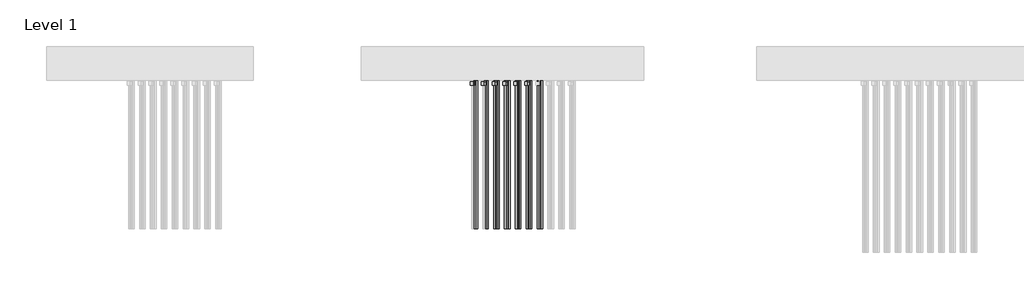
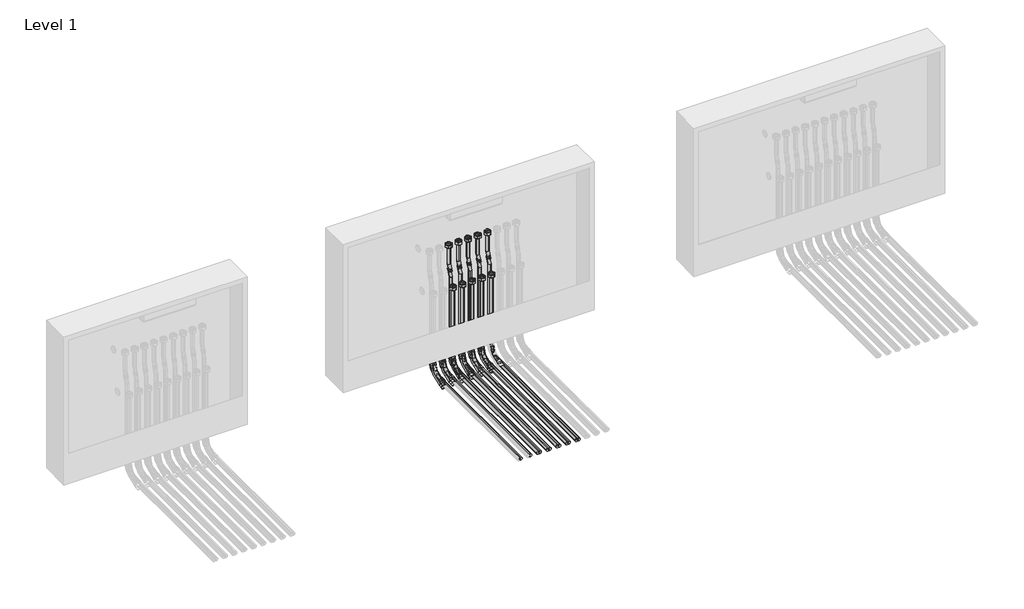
# One storey, part 10 of 15: 44 pipe fittings, 32 pipe segments.
"""IFC4 building model written with IfcOpenShell, lengths in millimetres."""

from ifc_helpers import new_model, si_unit, point, frame, frame_2d, origin, place, context, project, spatial, circle_curve, trimmed, segment, composite_curve, outline, extrude, transform, mapped, element, save
from components import pipe_fitting_b05a7e06, pipe_fitting_27357a6d, pipe_fitting_daada113, pipe_fitting_3e503640

model = new_model("IFC4")

# Units and contexts
model_context = context("Model", 3, world=origin())
ifc_project = project(units=[si_unit("LENGTHUNIT", "METRE", prefix="MILLI")], contexts=[model_context])

# Site, building, storey
site = spatial("IfcSite", under=ifc_project)
building = spatial("IfcBuilding", under=site)
storey = spatial("IfcBuildingStorey", under=building, Name="Level 1", Elevation=0.0)

# Pipe fittings
placement = place(None, origin())
pipe_fitting_shape = pipe_fitting_b05a7e06(model_context)
element("IfcPipeFitting", 1, ObjectType="USYSTEMS_УгловойФиксатор_Multi : Угловой фиксатор", at=placement, inside=storey, context=model_context, shape_type="MappedRepresentation", body=[
    mapped(pipe_fitting_shape, transform((13106.541018, 3819.4868288, -114.3211479), x_axis=(0.0, 0.0, -1.0), y_axis=(0.0, -1.0, 0.0), z_axis=(-1.0, 0.0, 0.0))),
])
element("IfcPipeFitting", 2, ObjectType="USYSTEMS_УгловойФиксатор_Multi : Угловой фиксатор", at=placement, inside=storey, context=model_context, shape_type="MappedRepresentation", body=[
    mapped(pipe_fitting_shape, transform((13156.541018, 3819.4868288, -114.3211479), x_axis=(0.0, 0.0, -1.0), y_axis=(0.0, -1.0, 0.0), z_axis=(-1.0, 0.0, 0.0))),
])
element("IfcPipeFitting", 3, ObjectType="USYSTEMS_УгловойФиксатор_Multi : Угловой фиксатор", at=placement, inside=storey, context=model_context, shape_type="MappedRepresentation", body=[
    mapped(pipe_fitting_shape, transform((13116.6267744, 3855.4868288, -114.3211479), x_axis=(0.0, 0.0, -1.0), y_axis=(0.0, -1.0, 0.0), z_axis=(-1.0, 0.0, 0.0))),
])
element("IfcPipeFitting", 4, ObjectType="USYSTEMS_УгловойФиксатор_Multi : Угловой фиксатор", at=placement, inside=storey, context=model_context, shape_type="MappedRepresentation", body=[
    mapped(pipe_fitting_shape, transform((13166.6267744, 3855.4868288, -114.3211479), x_axis=(0.0, 0.0, -1.0), y_axis=(0.0, -1.0, 0.0), z_axis=(-1.0, 0.0, 0.0))),
])
element("IfcPipeFitting", 5, ObjectType="USYSTEMS_УгловойФиксатор_Multi : Угловой фиксатор", at=placement, inside=storey, context=model_context, shape_type="MappedRepresentation", body=[
    mapped(pipe_fitting_shape, transform((13206.541018, 3819.4871509, -114.3211479), x_axis=(0.0, 0.0, -1.0), y_axis=(0.0, -1.0, 0.0), z_axis=(-1.0, 0.0, 0.0))),
])
element("IfcPipeFitting", 6, ObjectType="USYSTEMS_УгловойФиксатор_Multi : Угловой фиксатор", at=placement, inside=storey, context=model_context, shape_type="MappedRepresentation", body=[
    mapped(pipe_fitting_shape, transform((13216.6267744, 3855.4868288, -114.3211479), x_axis=(0.0, 0.0, -1.0), y_axis=(0.0, -1.0, 0.0), z_axis=(-1.0, 0.0, 0.0))),
])
element("IfcPipeFitting", 7, ObjectType="USYSTEMS_УгловойФиксатор_Multi : Угловой фиксатор", at=placement, inside=storey, context=model_context, shape_type="MappedRepresentation", body=[
    mapped(pipe_fitting_shape, transform((13256.541018, 3819.4871306, -114.3211479), x_axis=(0.0, 0.0, -1.0), y_axis=(0.0, -1.0, 0.0), z_axis=(-1.0, 0.0, 0.0))),
])
element("IfcPipeFitting", 8, ObjectType="USYSTEMS_УгловойФиксатор_Multi : Угловой фиксатор", at=placement, inside=storey, context=model_context, shape_type="MappedRepresentation", body=[
    mapped(pipe_fitting_shape, transform((13266.6267744, 3855.4868288, -114.3211479), x_axis=(0.0, 0.0, -1.0), y_axis=(0.0, -1.0, 0.0), z_axis=(-1.0, 0.0, 0.0))),
])
element("IfcPipeFitting", 9, ObjectType="USYSTEMS_УгловойФиксатор_Multi : Угловой фиксатор", at=placement, inside=storey, context=model_context, shape_type="MappedRepresentation", body=[
    mapped(pipe_fitting_shape, transform((13306.541018, 3819.4868288, -114.3211479), x_axis=(0.0, 0.0, -1.0), y_axis=(0.0, -1.0, 0.0), z_axis=(-1.0, 0.0, 0.0))),
])
element("IfcPipeFitting", 10, ObjectType="USYSTEMS_УгловойФиксатор_Multi : Угловой фиксатор", at=placement, inside=storey, context=model_context, shape_type="MappedRepresentation", body=[
    mapped(pipe_fitting_shape, transform((13316.6267744, 3855.4868288, -114.3211479), x_axis=(0.0, 0.0, -1.0), y_axis=(0.0, -1.0, 0.0), z_axis=(-1.0, 0.0, 0.0))),
])
element("IfcPipeFitting", 11, ObjectType="USYSTEMS_УгловойФиксатор_Multi : Угловой фиксатор", at=placement, inside=storey, context=model_context, shape_type="MappedRepresentation", body=[
    mapped(pipe_fitting_shape, transform((13356.541018, 3819.4871289, -114.3211479), x_axis=(0.0, 0.0, -1.0), y_axis=(0.0, -1.0, 0.0), z_axis=(-1.0, 0.0, 0.0))),
])
element("IfcPipeFitting", 12, ObjectType="USYSTEMS_УгловойФиксатор_Multi : Угловой фиксатор", at=placement, inside=storey, context=model_context, shape_type="MappedRepresentation", body=[
    mapped(pipe_fitting_shape, transform((13366.6267744, 3855.4868288, -114.3211479), x_axis=(0.0, 0.0, -1.0), y_axis=(0.0, -1.0, 0.0), z_axis=(-1.0, 0.0, 0.0))),
])
pipe_fitting_2_shape = pipe_fitting_27357a6d(model_context)
element("IfcPipeFitting", 13, ObjectType="USYSTEMS_Штуцер с внутренней резьбой_FlexX_PEX : 16x2,0 x 3/4\" ВР Евроконус", at=placement, inside=storey, context=model_context, shape_type="MappedRepresentation", body=[
    mapped(pipe_fitting_2_shape, transform((13206.541018, 3819.4872889, 328.3084133), x_axis=(0.0, 0.0, 1.0), y_axis=(0.0, 1.0, 0.0), z_axis=(-1.0, 0.0, 0.0))),
])
element("IfcPipeFitting", 14, ObjectType="USYSTEMS_Штуцер с внутренней резьбой_FlexX_PEX : 16x2,0 x 3/4\" ВР Евроконус", at=placement, inside=storey, context=model_context, shape_type="MappedRepresentation", body=[
    mapped(pipe_fitting_2_shape, transform((13206.541018, 3855.4872889, 538.3084133), x_axis=(0.0, 0.0, 1.0), y_axis=(0.0, 1.0, 0.0), z_axis=(-1.0, 0.0, 0.0))),
])
element("IfcPipeFitting", 15, ObjectType="USYSTEMS_Штуцер с внутренней резьбой_FlexX_PEX : 16x2,0 x 3/4\" ВР Евроконус", at=placement, inside=storey, context=model_context, shape_type="MappedRepresentation", body=[
    mapped(pipe_fitting_2_shape, transform((13256.541018, 3819.4872889, 328.3084133), x_axis=(0.0, 0.0, 1.0), y_axis=(0.0, 1.0, 0.0), z_axis=(-1.0, 0.0, 0.0))),
])
element("IfcPipeFitting", 16, ObjectType="USYSTEMS_Штуцер с внутренней резьбой_FlexX_PEX : 16x2,0 x 3/4\" ВР Евроконус", at=placement, inside=storey, context=model_context, shape_type="MappedRepresentation", body=[
    mapped(pipe_fitting_2_shape, transform((13256.541018, 3855.4872889, 538.3084133), x_axis=(0.0, 0.0, 1.0), y_axis=(0.0, 1.0, 0.0), z_axis=(-1.0, 0.0, 0.0))),
])
element("IfcPipeFitting", 17, ObjectType="USYSTEMS_Штуцер с внутренней резьбой_FlexX_PEX : 16x2,0 x 3/4\" ВР Евроконус", at=placement, inside=storey, context=model_context, shape_type="MappedRepresentation", body=[
    mapped(pipe_fitting_2_shape, transform((13306.541018, 3819.4872889, 328.3084133), x_axis=(0.0, 0.0, 1.0), y_axis=(0.0, 1.0, 0.0), z_axis=(-1.0, 0.0, 0.0))),
])
element("IfcPipeFitting", 18, ObjectType="USYSTEMS_Штуцер с внутренней резьбой_FlexX_PEX : 16x2,0 x 3/4\" ВР Евроконус", at=placement, inside=storey, context=model_context, shape_type="MappedRepresentation", body=[
    mapped(pipe_fitting_2_shape, transform((13306.541018, 3855.4872889, 538.3084133), x_axis=(0.0, 0.0, 1.0), y_axis=(0.0, 1.0, 0.0), z_axis=(-1.0, 0.0, 0.0))),
])
element("IfcPipeFitting", 19, ObjectType="USYSTEMS_Штуцер с внутренней резьбой_FlexX_PEX : 16x2,0 x 3/4\" ВР Евроконус", at=placement, inside=storey, context=model_context, shape_type="MappedRepresentation", body=[
    mapped(pipe_fitting_2_shape, transform((13356.541018, 3819.4872889, 328.3084133), x_axis=(0.0, 0.0, 1.0), y_axis=(0.0, 1.0, 0.0), z_axis=(-1.0, 0.0, 0.0))),
])
element("IfcPipeFitting", 20, ObjectType="USYSTEMS_Штуцер с внутренней резьбой_FlexX_PEX : 16x2,0 x 3/4\" ВР Евроконус", at=placement, inside=storey, context=model_context, shape_type="MappedRepresentation", body=[
    mapped(pipe_fitting_2_shape, transform((13356.541018, 3855.4872889, 538.3084133), x_axis=(0.0, 0.0, 1.0), y_axis=(0.0, 1.0, 0.0), z_axis=(-1.0, 0.0, 0.0))),
])
element("IfcPipeFitting", 21, ObjectType="USYSTEMS_Штуцер с внутренней резьбой_FlexX_PEX : 16x2,0 x 3/4\" ВР Евроконус", at=placement, inside=storey, context=model_context, shape_type="MappedRepresentation", body=[
    mapped(pipe_fitting_2_shape, transform((13406.541018, 3819.4872889, 328.3084133), x_axis=(0.0, 0.0, 1.0), y_axis=(0.0, 1.0, 0.0), z_axis=(-1.0, 0.0, 0.0))),
])
element("IfcPipeFitting", 22, ObjectType="USYSTEMS_Штуцер с внутренней резьбой_FlexX_PEX : 16x2,0 x 3/4\" ВР Евроконус", at=placement, inside=storey, context=model_context, shape_type="MappedRepresentation", body=[
    mapped(pipe_fitting_2_shape, transform((13406.541018, 3855.4872889, 538.3084133), x_axis=(0.0, 0.0, 1.0), y_axis=(0.0, 1.0, 0.0), z_axis=(-1.0, 0.0, 0.0))),
])
pipe_fitting_3_shape = pipe_fitting_daada113(model_context)
element("IfcPipeFitting", 23, ObjectType="USYSTEMS_Гнутая труба_Radi Pipe : PN 6 в бухтах", at=placement, inside=storey, context=model_context, shape_type="MappedRepresentation", body=[
    mapped(pipe_fitting_3_shape, transform((13206.541018, 3855.4865765, 414.5388211), x_axis=(0.0, 0.0, -1.0), y_axis=(1.0, 0.0, 0.0), z_axis=(0.0, -1.0, 0.0))),
])
element("IfcPipeFitting", 24, ObjectType="USYSTEMS_Гнутая труба_Radi Pipe : PN 6 в бухтах", at=placement, inside=storey, context=model_context, shape_type="MappedRepresentation", body=[
    mapped(pipe_fitting_3_shape, transform((13216.6267744, 3855.4868288, 388.2645272), x_axis=(0.3583679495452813, 0.0, -0.9335804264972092), y_axis=(-0.9335804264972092, 0.0, -0.3583679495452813), z_axis=(0.0, 1.0, 0.0))),
])
element("IfcPipeFitting", 25, ObjectType="USYSTEMS_Гнутая труба_Radi Pipe : PN 6 в бухтах", at=placement, inside=storey, context=model_context, shape_type="MappedRepresentation", body=[
    mapped(pipe_fitting_3_shape, transform((13256.541018, 3855.4865289, 414.5388211), x_axis=(0.0, 0.0, -1.0), y_axis=(1.0, 0.0, 0.0), z_axis=(0.0, -1.0, 0.0))),
])
element("IfcPipeFitting", 26, ObjectType="USYSTEMS_Гнутая труба_Radi Pipe : PN 6 в бухтах", at=placement, inside=storey, context=model_context, shape_type="MappedRepresentation", body=[
    mapped(pipe_fitting_3_shape, transform((13266.6267744, 3855.4868288, 388.2645272), x_axis=(0.3583679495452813, 0.0, -0.9335804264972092), y_axis=(-0.9335804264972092, 0.0, -0.3583679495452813), z_axis=(0.0, 1.0, 0.0))),
])
element("IfcPipeFitting", 27, ObjectType="USYSTEMS_Гнутая труба_Radi Pipe : PN 6 в бухтах", at=placement, inside=storey, context=model_context, shape_type="MappedRepresentation", body=[
    mapped(pipe_fitting_3_shape, transform((13306.541018, 3855.4866064, 414.5388211), x_axis=(0.0, 0.0, -1.0), y_axis=(1.0, 0.0, 0.0), z_axis=(0.0, -1.0, 0.0))),
])
element("IfcPipeFitting", 28, ObjectType="USYSTEMS_Гнутая труба_Radi Pipe : PN 6 в бухтах", at=placement, inside=storey, context=model_context, shape_type="MappedRepresentation", body=[
    mapped(pipe_fitting_3_shape, transform((13316.6267744, 3855.4868288, 388.2645272), x_axis=(0.3583679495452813, 0.0, -0.9335804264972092), y_axis=(-0.9335804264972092, 0.0, -0.3583679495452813), z_axis=(0.0, 1.0, 0.0))),
])
element("IfcPipeFitting", 29, ObjectType="USYSTEMS_Гнутая труба_Radi Pipe : PN 6 в бухтах", at=placement, inside=storey, context=model_context, shape_type="MappedRepresentation", body=[
    mapped(pipe_fitting_3_shape, transform((13356.541018, 3855.4865289, 414.5388211), x_axis=(0.0, 0.0, -1.0), y_axis=(1.0, 0.0, 0.0), z_axis=(0.0, -1.0, 0.0))),
])
element("IfcPipeFitting", 30, ObjectType="USYSTEMS_Гнутая труба_Radi Pipe : PN 6 в бухтах", at=placement, inside=storey, context=model_context, shape_type="MappedRepresentation", body=[
    mapped(pipe_fitting_3_shape, transform((13366.6267744, 3855.4868288, 388.2645272), x_axis=(0.3583679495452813, 0.0, -0.9335804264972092), y_axis=(-0.9335804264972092, 0.0, -0.3583679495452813), z_axis=(0.0, 1.0, 0.0))),
])
element("IfcPipeFitting", 31, ObjectType="USYSTEMS_Гнутая труба_Radi Pipe : PN 6 в бухтах", at=placement, inside=storey, context=model_context, shape_type="MappedRepresentation", body=[
    mapped(pipe_fitting_3_shape, transform((13406.541018, 3855.4870609, 414.5388211), x_axis=(0.0, 0.0, -1.0), y_axis=(1.0, 0.0, 0.0), z_axis=(0.0, -1.0, 0.0))),
])
element("IfcPipeFitting", 32, ObjectType="USYSTEMS_Гнутая труба_Radi Pipe : PN 6 в бухтах", at=placement, inside=storey, context=model_context, shape_type="MappedRepresentation", body=[
    mapped(pipe_fitting_3_shape, transform((13416.6267744, 3855.4871509, 388.2645272), x_axis=(0.3583679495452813, 0.0, -0.9335804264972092), y_axis=(-0.9335804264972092, 0.0, -0.3583679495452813), z_axis=(0.0, 1.0, 0.0))),
])
pipe_fitting_4_shape = pipe_fitting_3e503640(model_context)
element("IfcPipeFitting", 33, ObjectType="USYSTEMS_Гнутая труба_Radi Pipe : PN 6 в бухтах_С фиксатором", at=placement, inside=storey, context=model_context, shape_type="MappedRepresentation", body=[
    mapped(pipe_fitting_4_shape, transform((13156.541018, 3819.4868288, -114.3211479), x_axis=(0.0, 0.0, -1.0), y_axis=(0.0, -1.0, 0.0), z_axis=(-1.0, 0.0, 0.0))),
])
element("IfcPipeFitting", 34, ObjectType="USYSTEMS_Гнутая труба_Radi Pipe : PN 6 в бухтах_С фиксатором", at=placement, inside=storey, context=model_context, shape_type="MappedRepresentation", body=[
    mapped(pipe_fitting_4_shape, transform((13116.6267744, 3855.4868288, -114.3211479), x_axis=(0.0, 0.0, -1.0), y_axis=(0.0, -1.0, 0.0), z_axis=(-1.0, 0.0, 0.0))),
])
element("IfcPipeFitting", 35, ObjectType="USYSTEMS_Гнутая труба_Radi Pipe : PN 6 в бухтах_С фиксатором", at=placement, inside=storey, context=model_context, shape_type="MappedRepresentation", body=[
    mapped(pipe_fitting_4_shape, transform((13166.6267744, 3855.4868288, -114.3211479), x_axis=(0.0, 0.0, -1.0), y_axis=(0.0, -1.0, 0.0), z_axis=(-1.0, 0.0, 0.0))),
])
element("IfcPipeFitting", 36, ObjectType="USYSTEMS_Гнутая труба_Radi Pipe : PN 6 в бухтах_С фиксатором", at=placement, inside=storey, context=model_context, shape_type="MappedRepresentation", body=[
    mapped(pipe_fitting_4_shape, transform((13206.541018, 3819.4871509, -114.3211479), x_axis=(0.0, 0.0, -1.0), y_axis=(0.0, -1.0, 0.0), z_axis=(-1.0, 0.0, 0.0))),
])
element("IfcPipeFitting", 37, ObjectType="USYSTEMS_Гнутая труба_Radi Pipe : PN 6 в бухтах_С фиксатором", at=placement, inside=storey, context=model_context, shape_type="MappedRepresentation", body=[
    mapped(pipe_fitting_4_shape, transform((13216.6267744, 3855.4868288, -114.3211479), x_axis=(0.0, 0.0, -1.0), y_axis=(0.0, -1.0, 0.0), z_axis=(-1.0, 0.0, 0.0))),
])
element("IfcPipeFitting", 38, ObjectType="USYSTEMS_Гнутая труба_Radi Pipe : PN 6 в бухтах_С фиксатором", at=placement, inside=storey, context=model_context, shape_type="MappedRepresentation", body=[
    mapped(pipe_fitting_4_shape, transform((13256.541018, 3819.4871306, -114.3211479), x_axis=(0.0, 0.0, -1.0), y_axis=(0.0, -1.0, 0.0), z_axis=(-1.0, 0.0, 0.0))),
])
element("IfcPipeFitting", 39, ObjectType="USYSTEMS_Гнутая труба_Radi Pipe : PN 6 в бухтах_С фиксатором", at=placement, inside=storey, context=model_context, shape_type="MappedRepresentation", body=[
    mapped(pipe_fitting_4_shape, transform((13266.6267744, 3855.4868288, -114.3211479), x_axis=(0.0, 0.0, -1.0), y_axis=(0.0, -1.0, 0.0), z_axis=(-1.0, 0.0, 0.0))),
])
element("IfcPipeFitting", 40, ObjectType="USYSTEMS_Гнутая труба_Radi Pipe : PN 6 в бухтах_С фиксатором", at=placement, inside=storey, context=model_context, shape_type="MappedRepresentation", body=[
    mapped(pipe_fitting_4_shape, transform((13306.541018, 3819.4868288, -114.3211479), x_axis=(0.0, 0.0, -1.0), y_axis=(0.0, -1.0, 0.0), z_axis=(-1.0, 0.0, 0.0))),
])
element("IfcPipeFitting", 41, ObjectType="USYSTEMS_Гнутая труба_Radi Pipe : PN 6 в бухтах_С фиксатором", at=placement, inside=storey, context=model_context, shape_type="MappedRepresentation", body=[
    mapped(pipe_fitting_4_shape, transform((13316.6267744, 3855.4868288, -114.3211479), x_axis=(0.0, 0.0, -1.0), y_axis=(0.0, -1.0, 0.0), z_axis=(-1.0, 0.0, 0.0))),
])
element("IfcPipeFitting", 42, ObjectType="USYSTEMS_Гнутая труба_Radi Pipe : PN 6 в бухтах_С фиксатором", at=placement, inside=storey, context=model_context, shape_type="MappedRepresentation", body=[
    mapped(pipe_fitting_4_shape, transform((13356.541018, 3819.4871289, -114.3211479), x_axis=(0.0, 0.0, -1.0), y_axis=(0.0, -1.0, 0.0), z_axis=(-1.0, 0.0, 0.0))),
])
element("IfcPipeFitting", 43, ObjectType="USYSTEMS_Гнутая труба_Radi Pipe : PN 6 в бухтах_С фиксатором", at=placement, inside=storey, context=model_context, shape_type="MappedRepresentation", body=[
    mapped(pipe_fitting_4_shape, transform((13366.6267744, 3855.4868288, -114.3211479), x_axis=(0.0, 0.0, -1.0), y_axis=(0.0, -1.0, 0.0), z_axis=(-1.0, 0.0, 0.0))),
])
element("IfcPipeFitting", 44, ObjectType="USYSTEMS_Гнутая труба_Radi Pipe : PN 6 в бухтах_С фиксатором", at=placement, inside=storey, context=model_context, shape_type="MappedRepresentation", body=[
    mapped(pipe_fitting_4_shape, transform((13406.541018, 3819.4868288, -114.3211479), x_axis=(0.0, 0.0, -1.0), y_axis=(0.0, -1.0, 0.0), z_axis=(-1.0, 0.0, 0.0))),
])

# Pipe segments
element("IfcPipeSegment", 45, ObjectType="USYSTEMS труба Radi Pipe белая PN6", at=placement, inside=storey, context=model_context, shape_type="SweptSolid", body=[
    extrude(outline(composite_curve([segment(trimmed(circle_curve(frame_2d((-114.3211479, 13116.6267744)), 8.0), [point((-114.3211479, 13108.6267744))], [point((-122.3211479, 13116.6267744))], False, "CARTESIAN"), True, "CONTINUOUS"), segment(trimmed(circle_curve(frame_2d((-114.3211479, 13116.6267744)), 8.0), [point((-122.3211479, 13116.6267744))], [point((-114.3211479, 13124.6267744))], False, "CARTESIAN"), True, "CONTINUOUS"), segment(trimmed(circle_curve(frame_2d((-114.3211479, 13116.6267744)), 8.0), [point((-114.3211479, 13124.6267744))], [point((-106.3211479, 13116.6267744))], False, "CARTESIAN"), True, "CONTINUOUS"), segment(trimmed(circle_curve(frame_2d((-114.3211479, 13116.6267744)), 8.0), [point((-106.3211479, 13116.6267744))], [point((-114.3211479, 13108.6267744))], False, "CARTESIAN"), True, "CONTINUOUS")], self_intersect=False)), frame((0.0, 3054.7207207, 0.0), z_axis=(0.0, 1.0, 0.0), x_axis=(0.0, 0.0, 1.0)), (0.0, 0.0, 1.0), 729.766108),
])
element("IfcPipeSegment", 46, ObjectType="USYSTEMS труба Radi Pipe белая PN6", at=placement, inside=storey, context=model_context, shape_type="SweptSolid", body=[
    extrude(outline(composite_curve([segment(trimmed(circle_curve(frame_2d((-114.3211479, 13166.6267744)), 8.0), [point((-114.3211479, 13158.6267744))], [point((-122.3211479, 13166.6267744))], False, "CARTESIAN"), True, "CONTINUOUS"), segment(trimmed(circle_curve(frame_2d((-114.3211479, 13166.6267744)), 8.0), [point((-122.3211479, 13166.6267744))], [point((-114.3211479, 13174.6267744))], False, "CARTESIAN"), True, "CONTINUOUS"), segment(trimmed(circle_curve(frame_2d((-114.3211479, 13166.6267744)), 8.0), [point((-114.3211479, 13174.6267744))], [point((-106.3211479, 13166.6267744))], False, "CARTESIAN"), True, "CONTINUOUS"), segment(trimmed(circle_curve(frame_2d((-114.3211479, 13166.6267744)), 8.0), [point((-106.3211479, 13166.6267744))], [point((-114.3211479, 13158.6267744))], False, "CARTESIAN"), True, "CONTINUOUS")], self_intersect=False)), frame((0.0, 3054.7207207, 0.0), z_axis=(0.0, 1.0, 0.0), x_axis=(0.0, 0.0, 1.0)), (0.0, 0.0, 1.0), 729.766108),
])
element("IfcPipeSegment", 47, ObjectType="USYSTEMS труба Radi Pipe белая PN6", at=placement, inside=storey, context=model_context, shape_type="SweptSolid", body=[
    extrude(outline(composite_curve([segment(trimmed(circle_curve(frame_2d((0.0, -8.0)), 8.0), [point((-8.0, -8.0))], [point((0.0, 0.0))], False, "CARTESIAN"), True, "CONTINUOUS"), segment(trimmed(circle_curve(frame_2d((0.0, -8.0)), 8.0), [point((0.0, 0.0))], [point((8.0, -8.0))], False, "CARTESIAN"), True, "CONTINUOUS"), segment(trimmed(circle_curve(frame_2d((0.0, -8.0)), 8.0), [point((8.0, -8.0))], [point((0.0, -16.0))], False, "CARTESIAN"), True, "CONTINUOUS"), segment(trimmed(circle_curve(frame_2d((0.0, -8.0)), 8.0), [point((0.0, -16.0))], [point((-8.0, -8.0))], False, "CARTESIAN"), True, "CONTINUOUS")], self_intersect=False)), frame((13206.541018, 3811.4871509, -43.3211449), z_axis=(0.0, 3.7245021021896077e-07, 0.9999999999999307), x_axis=(-1.0, 0.0, 0.0)), (0.0, 0.0, 1.0), 370.6295612),
])
element("IfcPipeSegment", 48, ObjectType="USYSTEMS труба Radi Pipe белая PN6", at=placement, inside=storey, context=model_context, shape_type="SweptSolid", body=[
    extrude(outline(composite_curve([segment(trimmed(circle_curve(frame_2d((0.0, -8.0)), 8.0), [point((-8.0, -8.0))], [point((0.0, 0.0))], False, "CARTESIAN"), True, "CONTINUOUS"), segment(trimmed(circle_curve(frame_2d((0.0, -8.0)), 8.0), [point((0.0, 0.0))], [point((8.0, -8.0))], False, "CARTESIAN"), True, "CONTINUOUS"), segment(trimmed(circle_curve(frame_2d((0.0, -8.0)), 8.0), [point((8.0, -8.0))], [point((0.0, -16.0))], False, "CARTESIAN"), True, "CONTINUOUS"), segment(trimmed(circle_curve(frame_2d((0.0, -8.0)), 8.0), [point((0.0, -16.0))], [point((-8.0, -8.0))], False, "CARTESIAN"), True, "CONTINUOUS")], self_intersect=False)), frame((13206.541018, 3847.4865765, 438.2622764), z_axis=(0.0, 7.1927748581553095e-06, 0.999999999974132), x_axis=(-1.0, 0.0, 0.0)), (0.0, 0.0, 1.0), 99.0461944),
])
element("IfcPipeSegment", 49, ObjectType="USYSTEMS труба Radi Pipe белая PN6", at=placement, inside=storey, context=model_context, shape_type="SweptSolid", body=[
    extrude(outline(composite_curve([segment(trimmed(circle_curve(frame_2d((0.0, 8.0)), 8.0), [point((0.0003125, 16.0))], [point((8.0, 7.9996875))], False, "CARTESIAN"), True, "CONTINUOUS"), segment(trimmed(circle_curve(frame_2d((0.0, 8.0)), 8.0), [point((8.0, 7.9996875))], [point((-0.0003126, 0.0))], False, "CARTESIAN"), True, "CONTINUOUS"), segment(trimmed(circle_curve(frame_2d((0.0, 8.0)), 8.0), [point((-0.0003126, 0.0))], [point((-8.0, 8.0003125))], False, "CARTESIAN"), True, "CONTINUOUS"), segment(trimmed(circle_curve(frame_2d((0.0, 8.0)), 8.0), [point((-8.0, 8.0003125))], [point((0.0003125, 16.0))], False, "CARTESIAN"), True, "CONTINUOUS")], self_intersect=False)), frame((13215.0427234, 3847.4865765, 392.3912333), z_axis=(-0.3583679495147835, 1.3069330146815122e-05, 0.9335804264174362), x_axis=(0.9335804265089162, 5.016845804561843e-06, 0.3583679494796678)), (0.0, 0.0, 1.0), 19.3032171),
])
element("IfcPipeSegment", 50, ObjectType="USYSTEMS труба Radi Pipe белая PN6", at=placement, inside=storey, context=model_context, shape_type="SweptSolid", body=[
    extrude(outline(composite_curve([segment(trimmed(circle_curve(frame_2d((13216.6267744, 3855.4868288)), 8.0), [point((13224.6267744, 3855.4868288))], [point((13216.6267744, 3847.4868288))], False, "CARTESIAN"), True, "CONTINUOUS"), segment(trimmed(circle_curve(frame_2d((13216.6267744, 3855.4868288)), 8.0), [point((13216.6267744, 3847.4868288))], [point((13208.6267744, 3855.4868288))], False, "CARTESIAN"), True, "CONTINUOUS"), segment(trimmed(circle_curve(frame_2d((13216.6267744, 3855.4868288)), 8.0), [point((13208.6267744, 3855.4868288))], [point((13216.6267744, 3863.4868288))], False, "CARTESIAN"), True, "CONTINUOUS"), segment(trimmed(circle_curve(frame_2d((13216.6267744, 3855.4868288)), 8.0), [point((13216.6267744, 3863.4868288))], [point((13224.6267744, 3855.4868288))], False, "CARTESIAN"), True, "CONTINUOUS")], self_intersect=False)), frame((0.0, 0.0, -43.3211479), z_axis=(0.0, 0.0, 1.0), x_axis=(1.0, 0.0, 0.0)), (0.0, 0.0, 1.0), 407.8622774),
])
element("IfcPipeSegment", 51, ObjectType="USYSTEMS труба Radi Pipe белая PN6", at=placement, inside=storey, context=model_context, shape_type="SweptSolid", body=[
    extrude(outline(composite_curve([segment(trimmed(circle_curve(frame_2d((-114.3211479, 13206.541018)), 8.0), [point((-114.3211479, 13198.541018))], [point((-122.3211479, 13206.541018))], False, "CARTESIAN"), True, "CONTINUOUS"), segment(trimmed(circle_curve(frame_2d((-114.3211479, 13206.541018)), 8.0), [point((-122.3211479, 13206.541018))], [point((-114.3211479, 13214.541018))], False, "CARTESIAN"), True, "CONTINUOUS"), segment(trimmed(circle_curve(frame_2d((-114.3211479, 13206.541018)), 8.0), [point((-114.3211479, 13214.541018))], [point((-106.3211479, 13206.541018))], False, "CARTESIAN"), True, "CONTINUOUS"), segment(trimmed(circle_curve(frame_2d((-114.3211479, 13206.541018)), 8.0), [point((-106.3211479, 13206.541018))], [point((-114.3211479, 13198.541018))], False, "CARTESIAN"), True, "CONTINUOUS")], self_intersect=False)), frame((0.0, 3054.7207207, 0.0), z_axis=(0.0, 1.0, 0.0), x_axis=(0.0, 0.0, 1.0)), (0.0, 0.0, 1.0), 693.7664301),
])
element("IfcPipeSegment", 52, ObjectType="USYSTEMS труба Radi Pipe белая PN6", at=placement, inside=storey, context=model_context, shape_type="SweptSolid", body=[
    extrude(outline(composite_curve([segment(trimmed(circle_curve(frame_2d((-114.3211479, 13216.6267744)), 8.0), [point((-114.3211479, 13208.6267744))], [point((-122.3211479, 13216.6267744))], False, "CARTESIAN"), True, "CONTINUOUS"), segment(trimmed(circle_curve(frame_2d((-114.3211479, 13216.6267744)), 8.0), [point((-122.3211479, 13216.6267744))], [point((-114.3211479, 13224.6267744))], False, "CARTESIAN"), True, "CONTINUOUS"), segment(trimmed(circle_curve(frame_2d((-114.3211479, 13216.6267744)), 8.0), [point((-114.3211479, 13224.6267744))], [point((-106.3211479, 13216.6267744))], False, "CARTESIAN"), True, "CONTINUOUS"), segment(trimmed(circle_curve(frame_2d((-114.3211479, 13216.6267744)), 8.0), [point((-106.3211479, 13216.6267744))], [point((-114.3211479, 13208.6267744))], False, "CARTESIAN"), True, "CONTINUOUS")], self_intersect=False)), frame((0.0, 3054.7207207, 0.0), z_axis=(0.0, 1.0, 0.0), x_axis=(0.0, 0.0, 1.0)), (0.0, 0.0, 1.0), 729.766108),
])
element("IfcPipeSegment", 53, ObjectType="USYSTEMS труба Radi Pipe белая PN6", at=placement, inside=storey, context=model_context, shape_type="SweptSolid", body=[
    extrude(outline(composite_curve([segment(trimmed(circle_curve(frame_2d((0.0, -8.0)), 8.0), [point((-8.0, -8.0))], [point((0.0, 0.0))], False, "CARTESIAN"), True, "CONTINUOUS"), segment(trimmed(circle_curve(frame_2d((0.0, -8.0)), 8.0), [point((0.0, 0.0))], [point((8.0, -8.0))], False, "CARTESIAN"), True, "CONTINUOUS"), segment(trimmed(circle_curve(frame_2d((0.0, -8.0)), 8.0), [point((8.0, -8.0))], [point((0.0, -16.0))], False, "CARTESIAN"), True, "CONTINUOUS"), segment(trimmed(circle_curve(frame_2d((0.0, -8.0)), 8.0), [point((0.0, -16.0))], [point((-8.0, -8.0))], False, "CARTESIAN"), True, "CONTINUOUS")], self_intersect=False)), frame((13256.541018, 3811.4871306, -43.3211445), z_axis=(0.0, 4.271179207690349e-07, 0.9999999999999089), x_axis=(-1.0, 0.0, 0.0)), (0.0, 0.0, 1.0), 370.6295612),
])
element("IfcPipeSegment", 54, ObjectType="USYSTEMS труба Radi Pipe белая PN6", at=placement, inside=storey, context=model_context, shape_type="SweptSolid", body=[
    extrude(outline(composite_curve([segment(trimmed(circle_curve(frame_2d((0.0, -8.0)), 8.0), [point((-8.0, -8.0))], [point((0.0, 0.0))], False, "CARTESIAN"), True, "CONTINUOUS"), segment(trimmed(circle_curve(frame_2d((0.0, -8.0)), 8.0), [point((0.0, 0.0))], [point((8.0, -8.0))], False, "CARTESIAN"), True, "CONTINUOUS"), segment(trimmed(circle_curve(frame_2d((0.0, -8.0)), 8.0), [point((8.0, -8.0))], [point((0.0, -16.0))], False, "CARTESIAN"), True, "CONTINUOUS"), segment(trimmed(circle_curve(frame_2d((0.0, -8.0)), 8.0), [point((0.0, -16.0))], [point((-8.0, -8.0))], False, "CARTESIAN"), True, "CONTINUOUS")], self_intersect=False)), frame((13256.541018, 3847.4865289, 438.2622802), z_axis=(0.0, 7.672802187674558e-06, 0.9999999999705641), x_axis=(-1.0, 0.0, 0.0)), (0.0, 0.0, 1.0), 99.0461944),
])
element("IfcPipeSegment", 55, ObjectType="USYSTEMS труба Radi Pipe белая PN6", at=placement, inside=storey, context=model_context, shape_type="SweptSolid", body=[
    extrude(outline(composite_curve([segment(trimmed(circle_curve(frame_2d((0.0, 8.0)), 8.0), [point((0.0003714, 16.0))], [point((8.0, 7.9996286))], False, "CARTESIAN"), True, "CONTINUOUS"), segment(trimmed(circle_curve(frame_2d((0.0, 8.0)), 8.0), [point((8.0, 7.9996286))], [point((-0.0003715, 0.0))], False, "CARTESIAN"), True, "CONTINUOUS"), segment(trimmed(circle_curve(frame_2d((0.0, 8.0)), 8.0), [point((-0.0003715, 0.0))], [point((-8.0, 8.0003714))], False, "CARTESIAN"), True, "CONTINUOUS"), segment(trimmed(circle_curve(frame_2d((0.0, 8.0)), 8.0), [point((-8.0, 8.0003714))], [point((0.0003714, 16.0))], False, "CARTESIAN"), True, "CONTINUOUS")], self_intersect=False)), frame((13265.0427234, 3847.4865289, 392.3912544), z_axis=(-0.35836794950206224, 1.553238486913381e-05, 0.9335804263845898), x_axis=(0.9335804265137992, 5.9623239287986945e-06, 0.35836794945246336)), (0.0, 0.0, 1.0), 19.3032171),
])
element("IfcPipeSegment", 56, ObjectType="USYSTEMS труба Radi Pipe белая PN6", at=placement, inside=storey, context=model_context, shape_type="SweptSolid", body=[
    extrude(outline(composite_curve([segment(trimmed(circle_curve(frame_2d((13266.6267744, 3855.4868288)), 8.0), [point((13274.6267744, 3855.4868288))], [point((13266.6267744, 3847.4868288))], False, "CARTESIAN"), True, "CONTINUOUS"), segment(trimmed(circle_curve(frame_2d((13266.6267744, 3855.4868288)), 8.0), [point((13266.6267744, 3847.4868288))], [point((13258.6267744, 3855.4868288))], False, "CARTESIAN"), True, "CONTINUOUS"), segment(trimmed(circle_curve(frame_2d((13266.6267744, 3855.4868288)), 8.0), [point((13258.6267744, 3855.4868288))], [point((13266.6267744, 3863.4868288))], False, "CARTESIAN"), True, "CONTINUOUS"), segment(trimmed(circle_curve(frame_2d((13266.6267744, 3855.4868288)), 8.0), [point((13266.6267744, 3863.4868288))], [point((13274.6267744, 3855.4868288))], False, "CARTESIAN"), True, "CONTINUOUS")], self_intersect=False)), frame((0.0, 0.0, -43.3211479), z_axis=(0.0, 0.0, 1.0), x_axis=(1.0, 0.0, 0.0)), (0.0, 0.0, 1.0), 407.8622774),
])
element("IfcPipeSegment", 57, ObjectType="USYSTEMS труба Radi Pipe белая PN6", at=placement, inside=storey, context=model_context, shape_type="SweptSolid", body=[
    extrude(outline(composite_curve([segment(trimmed(circle_curve(frame_2d((-114.3211479, 13256.541018)), 8.0), [point((-114.3211479, 13248.541018))], [point((-122.3211479, 13256.541018))], False, "CARTESIAN"), True, "CONTINUOUS"), segment(trimmed(circle_curve(frame_2d((-114.3211479, 13256.541018)), 8.0), [point((-122.3211479, 13256.541018))], [point((-114.3211479, 13264.541018))], False, "CARTESIAN"), True, "CONTINUOUS"), segment(trimmed(circle_curve(frame_2d((-114.3211479, 13256.541018)), 8.0), [point((-114.3211479, 13264.541018))], [point((-106.3211479, 13256.541018))], False, "CARTESIAN"), True, "CONTINUOUS"), segment(trimmed(circle_curve(frame_2d((-114.3211479, 13256.541018)), 8.0), [point((-106.3211479, 13256.541018))], [point((-114.3211479, 13248.541018))], False, "CARTESIAN"), True, "CONTINUOUS")], self_intersect=False)), frame((0.0, 3054.7207207, 0.0), z_axis=(0.0, 1.0, 0.0), x_axis=(0.0, 0.0, 1.0)), (0.0, 0.0, 1.0), 693.7664099),
])
element("IfcPipeSegment", 58, ObjectType="USYSTEMS труба Radi Pipe белая PN6", at=placement, inside=storey, context=model_context, shape_type="SweptSolid", body=[
    extrude(outline(composite_curve([segment(trimmed(circle_curve(frame_2d((-114.3211479, 13266.6267744)), 8.0), [point((-114.3211479, 13258.6267744))], [point((-122.3211479, 13266.6267744))], False, "CARTESIAN"), True, "CONTINUOUS"), segment(trimmed(circle_curve(frame_2d((-114.3211479, 13266.6267744)), 8.0), [point((-122.3211479, 13266.6267744))], [point((-114.3211479, 13274.6267744))], False, "CARTESIAN"), True, "CONTINUOUS"), segment(trimmed(circle_curve(frame_2d((-114.3211479, 13266.6267744)), 8.0), [point((-114.3211479, 13274.6267744))], [point((-106.3211479, 13266.6267744))], False, "CARTESIAN"), True, "CONTINUOUS"), segment(trimmed(circle_curve(frame_2d((-114.3211479, 13266.6267744)), 8.0), [point((-106.3211479, 13266.6267744))], [point((-114.3211479, 13258.6267744))], False, "CARTESIAN"), True, "CONTINUOUS")], self_intersect=False)), frame((0.0, 3054.7207207, 0.0), z_axis=(0.0, 1.0, 0.0), x_axis=(0.0, 0.0, 1.0)), (0.0, 0.0, 1.0), 729.766108),
])
element("IfcPipeSegment", 59, ObjectType="USYSTEMS труба Radi Pipe белая PN6", at=placement, inside=storey, context=model_context, shape_type="SweptSolid", body=[
    extrude(outline(composite_curve([segment(trimmed(circle_curve(frame_2d((0.0, -8.0)), 8.0), [point((-8.0, -8.0))], [point((0.0, 0.0))], False, "CARTESIAN"), True, "CONTINUOUS"), segment(trimmed(circle_curve(frame_2d((0.0, -8.0)), 8.0), [point((0.0, 0.0))], [point((8.0, -8.0))], False, "CARTESIAN"), True, "CONTINUOUS"), segment(trimmed(circle_curve(frame_2d((0.0, -8.0)), 8.0), [point((8.0, -8.0))], [point((0.0, -16.0))], False, "CARTESIAN"), True, "CONTINUOUS"), segment(trimmed(circle_curve(frame_2d((0.0, -8.0)), 8.0), [point((0.0, -16.0))], [point((-8.0, -8.0))], False, "CARTESIAN"), True, "CONTINUOUS")], self_intersect=False)), frame((13306.541018, 3811.4868288, -43.321138), z_axis=(0.0, 1.2415007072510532e-06, 0.9999999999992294), x_axis=(-1.0, 0.0, 0.0)), (0.0, 0.0, 1.0), 370.6295612),
])
element("IfcPipeSegment", 60, ObjectType="USYSTEMS труба Radi Pipe белая PN6", at=placement, inside=storey, context=model_context, shape_type="SweptSolid", body=[
    extrude(outline(composite_curve([segment(trimmed(circle_curve(frame_2d((0.0, -8.0)), 8.0), [point((-8.0, -8.0))], [point((0.0, 0.0))], False, "CARTESIAN"), True, "CONTINUOUS"), segment(trimmed(circle_curve(frame_2d((0.0, -8.0)), 8.0), [point((0.0, 0.0))], [point((8.0, -8.0))], False, "CARTESIAN"), True, "CONTINUOUS"), segment(trimmed(circle_curve(frame_2d((0.0, -8.0)), 8.0), [point((8.0, -8.0))], [point((0.0, -16.0))], False, "CARTESIAN"), True, "CONTINUOUS"), segment(trimmed(circle_curve(frame_2d((0.0, -8.0)), 8.0), [point((0.0, -16.0))], [point((-8.0, -8.0))], False, "CARTESIAN"), True, "CONTINUOUS")], self_intersect=False)), frame((13306.541018, 3847.4866064, 438.262274), z_axis=(0.0, 6.890281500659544e-06, 0.9999999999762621), x_axis=(-1.0, 0.0, 0.0)), (0.0, 0.0, 1.0), 99.0461944),
])
element("IfcPipeSegment", 61, ObjectType="USYSTEMS труба Radi Pipe белая PN6", at=placement, inside=storey, context=model_context, shape_type="SweptSolid", body=[
    extrude(outline(composite_curve([segment(trimmed(circle_curve(frame_2d((0.0, 8.0)), 8.0), [point((0.0002754, 16.0))], [point((8.0, 7.9997246))], False, "CARTESIAN"), True, "CONTINUOUS"), segment(trimmed(circle_curve(frame_2d((0.0, 8.0)), 8.0), [point((8.0, 7.9997246))], [point((-0.0002754, 0.0))], False, "CARTESIAN"), True, "CONTINUOUS"), segment(trimmed(circle_curve(frame_2d((0.0, 8.0)), 8.0), [point((-0.0002754, 0.0))], [point((-8.0, 8.0002755))], False, "CARTESIAN"), True, "CONTINUOUS"), segment(trimmed(circle_curve(frame_2d((0.0, 8.0)), 8.0), [point((-8.0, 8.0002755))], [point((0.0002754, 16.0))], False, "CARTESIAN"), True, "CONTINUOUS")], self_intersect=False)), frame((13315.0427234, 3847.4866064, 392.39122), z_axis=(-0.35836794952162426, 1.1517214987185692e-05, 0.9335804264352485), x_axis=(0.9335804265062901, 4.4210446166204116e-06, 0.3583679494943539)), (0.0, 0.0, 1.0), 19.3032171),
])
element("IfcPipeSegment", 62, ObjectType="USYSTEMS труба Radi Pipe белая PN6", at=placement, inside=storey, context=model_context, shape_type="SweptSolid", body=[
    extrude(outline(composite_curve([segment(trimmed(circle_curve(frame_2d((13316.6267744, 3855.4868288)), 8.0), [point((13324.6267744, 3855.4868288))], [point((13316.6267744, 3847.4868288))], False, "CARTESIAN"), True, "CONTINUOUS"), segment(trimmed(circle_curve(frame_2d((13316.6267744, 3855.4868288)), 8.0), [point((13316.6267744, 3847.4868288))], [point((13308.6267744, 3855.4868288))], False, "CARTESIAN"), True, "CONTINUOUS"), segment(trimmed(circle_curve(frame_2d((13316.6267744, 3855.4868288)), 8.0), [point((13308.6267744, 3855.4868288))], [point((13316.6267744, 3863.4868288))], False, "CARTESIAN"), True, "CONTINUOUS"), segment(trimmed(circle_curve(frame_2d((13316.6267744, 3855.4868288)), 8.0), [point((13316.6267744, 3863.4868288))], [point((13324.6267744, 3855.4868288))], False, "CARTESIAN"), True, "CONTINUOUS")], self_intersect=False)), frame((0.0, 0.0, -43.3211479), z_axis=(0.0, 0.0, 1.0), x_axis=(1.0, 0.0, 0.0)), (0.0, 0.0, 1.0), 407.8622774),
])
element("IfcPipeSegment", 63, ObjectType="USYSTEMS труба Radi Pipe белая PN6", at=placement, inside=storey, context=model_context, shape_type="SweptSolid", body=[
    extrude(outline(composite_curve([segment(trimmed(circle_curve(frame_2d((-114.3211479, 13306.541018)), 8.0), [point((-114.3211479, 13298.541018))], [point((-122.3211479, 13306.541018))], False, "CARTESIAN"), True, "CONTINUOUS"), segment(trimmed(circle_curve(frame_2d((-114.3211479, 13306.541018)), 8.0), [point((-122.3211479, 13306.541018))], [point((-114.3211479, 13314.541018))], False, "CARTESIAN"), True, "CONTINUOUS"), segment(trimmed(circle_curve(frame_2d((-114.3211479, 13306.541018)), 8.0), [point((-114.3211479, 13314.541018))], [point((-106.3211479, 13306.541018))], False, "CARTESIAN"), True, "CONTINUOUS"), segment(trimmed(circle_curve(frame_2d((-114.3211479, 13306.541018)), 8.0), [point((-106.3211479, 13306.541018))], [point((-114.3211479, 13298.541018))], False, "CARTESIAN"), True, "CONTINUOUS")], self_intersect=False)), frame((0.0, 3054.7207207, 0.0), z_axis=(0.0, 1.0, 0.0), x_axis=(0.0, 0.0, 1.0)), (0.0, 0.0, 1.0), 693.766108),
])
element("IfcPipeSegment", 64, ObjectType="USYSTEMS труба Radi Pipe белая PN6", at=placement, inside=storey, context=model_context, shape_type="SweptSolid", body=[
    extrude(outline(composite_curve([segment(trimmed(circle_curve(frame_2d((-114.3211479, 13316.6267744)), 8.0), [point((-114.3211479, 13308.6267744))], [point((-122.3211479, 13316.6267744))], False, "CARTESIAN"), True, "CONTINUOUS"), segment(trimmed(circle_curve(frame_2d((-114.3211479, 13316.6267744)), 8.0), [point((-122.3211479, 13316.6267744))], [point((-114.3211479, 13324.6267744))], False, "CARTESIAN"), True, "CONTINUOUS"), segment(trimmed(circle_curve(frame_2d((-114.3211479, 13316.6267744)), 8.0), [point((-114.3211479, 13324.6267744))], [point((-106.3211479, 13316.6267744))], False, "CARTESIAN"), True, "CONTINUOUS"), segment(trimmed(circle_curve(frame_2d((-114.3211479, 13316.6267744)), 8.0), [point((-106.3211479, 13316.6267744))], [point((-114.3211479, 13308.6267744))], False, "CARTESIAN"), True, "CONTINUOUS")], self_intersect=False)), frame((0.0, 3054.7207207, 0.0), z_axis=(0.0, 1.0, 0.0), x_axis=(0.0, 0.0, 1.0)), (0.0, 0.0, 1.0), 729.766108),
])
element("IfcPipeSegment", 65, ObjectType="USYSTEMS труба Radi Pipe белая PN6", at=placement, inside=storey, context=model_context, shape_type="SweptSolid", body=[
    extrude(outline(composite_curve([segment(trimmed(circle_curve(frame_2d((0.0, -8.0)), 8.0), [point((-8.0, -8.0))], [point((0.0, 0.0))], False, "CARTESIAN"), True, "CONTINUOUS"), segment(trimmed(circle_curve(frame_2d((0.0, -8.0)), 8.0), [point((0.0, 0.0))], [point((8.0, -8.0))], False, "CARTESIAN"), True, "CONTINUOUS"), segment(trimmed(circle_curve(frame_2d((0.0, -8.0)), 8.0), [point((8.0, -8.0))], [point((0.0, -16.0))], False, "CARTESIAN"), True, "CONTINUOUS"), segment(trimmed(circle_curve(frame_2d((0.0, -8.0)), 8.0), [point((0.0, -16.0))], [point((-8.0, -8.0))], False, "CARTESIAN"), True, "CONTINUOUS")], self_intersect=False)), frame((13356.541018, 3811.4871289, -43.3211444), z_axis=(0.0, 4.317822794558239e-07, 0.9999999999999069), x_axis=(-1.0, 0.0, 0.0)), (0.0, 0.0, 1.0), 370.6295612),
])
element("IfcPipeSegment", 66, ObjectType="USYSTEMS труба Radi Pipe белая PN6", at=placement, inside=storey, context=model_context, shape_type="SweptSolid", body=[
    extrude(outline(composite_curve([segment(trimmed(circle_curve(frame_2d((0.0, -8.0)), 8.0), [point((-8.0, -8.0))], [point((0.0, 0.0))], False, "CARTESIAN"), True, "CONTINUOUS"), segment(trimmed(circle_curve(frame_2d((0.0, -8.0)), 8.0), [point((0.0, 0.0))], [point((8.0, -8.0))], False, "CARTESIAN"), True, "CONTINUOUS"), segment(trimmed(circle_curve(frame_2d((0.0, -8.0)), 8.0), [point((8.0, -8.0))], [point((0.0, -16.0))], False, "CARTESIAN"), True, "CONTINUOUS"), segment(trimmed(circle_curve(frame_2d((0.0, -8.0)), 8.0), [point((0.0, -16.0))], [point((-8.0, -8.0))], False, "CARTESIAN"), True, "CONTINUOUS")], self_intersect=False)), frame((13356.541018, 3847.4865289, 438.2622802), z_axis=(0.0, 7.672802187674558e-06, 0.9999999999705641), x_axis=(-1.0, 0.0, 0.0)), (0.0, 0.0, 1.0), 99.0461944),
])
element("IfcPipeSegment", 67, ObjectType="USYSTEMS труба Radi Pipe белая PN6", at=placement, inside=storey, context=model_context, shape_type="SweptSolid", body=[
    extrude(outline(composite_curve([segment(trimmed(circle_curve(frame_2d((0.0, 8.0)), 8.0), [point((0.0003714, 16.0))], [point((8.0, 7.9996286))], False, "CARTESIAN"), True, "CONTINUOUS"), segment(trimmed(circle_curve(frame_2d((0.0, 8.0)), 8.0), [point((8.0, 7.9996286))], [point((-0.0003715, 0.0))], False, "CARTESIAN"), True, "CONTINUOUS"), segment(trimmed(circle_curve(frame_2d((0.0, 8.0)), 8.0), [point((-0.0003715, 0.0))], [point((-8.0, 8.0003714))], False, "CARTESIAN"), True, "CONTINUOUS"), segment(trimmed(circle_curve(frame_2d((0.0, 8.0)), 8.0), [point((-8.0, 8.0003714))], [point((0.0003714, 16.0))], False, "CARTESIAN"), True, "CONTINUOUS")], self_intersect=False)), frame((13365.0427234, 3847.4865289, 392.3912544), z_axis=(-0.35836794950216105, 1.553238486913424e-05, 0.933580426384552), x_axis=(0.9335804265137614, 5.962323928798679e-06, 0.3583679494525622)), (0.0, 0.0, 1.0), 19.3032171),
])
element("IfcPipeSegment", 68, ObjectType="USYSTEMS труба Radi Pipe белая PN6", at=placement, inside=storey, context=model_context, shape_type="SweptSolid", body=[
    extrude(outline(composite_curve([segment(trimmed(circle_curve(frame_2d((13366.6267744, 3855.4868288)), 8.0), [point((13374.6267744, 3855.4868288))], [point((13366.6267744, 3847.4868288))], False, "CARTESIAN"), True, "CONTINUOUS"), segment(trimmed(circle_curve(frame_2d((13366.6267744, 3855.4868288)), 8.0), [point((13366.6267744, 3847.4868288))], [point((13358.6267744, 3855.4868288))], False, "CARTESIAN"), True, "CONTINUOUS"), segment(trimmed(circle_curve(frame_2d((13366.6267744, 3855.4868288)), 8.0), [point((13358.6267744, 3855.4868288))], [point((13366.6267744, 3863.4868288))], False, "CARTESIAN"), True, "CONTINUOUS"), segment(trimmed(circle_curve(frame_2d((13366.6267744, 3855.4868288)), 8.0), [point((13366.6267744, 3863.4868288))], [point((13374.6267744, 3855.4868288))], False, "CARTESIAN"), True, "CONTINUOUS")], self_intersect=False)), frame((0.0, 0.0, -43.3211479), z_axis=(0.0, 0.0, 1.0), x_axis=(1.0, 0.0, 0.0)), (0.0, 0.0, 1.0), 407.8622774),
])
element("IfcPipeSegment", 69, ObjectType="USYSTEMS труба Radi Pipe белая PN6", at=placement, inside=storey, context=model_context, shape_type="SweptSolid", body=[
    extrude(outline(composite_curve([segment(trimmed(circle_curve(frame_2d((-114.3211479, 13356.541018)), 8.0), [point((-114.3211479, 13348.541018))], [point((-122.3211479, 13356.541018))], False, "CARTESIAN"), True, "CONTINUOUS"), segment(trimmed(circle_curve(frame_2d((-114.3211479, 13356.541018)), 8.0), [point((-122.3211479, 13356.541018))], [point((-114.3211479, 13364.541018))], False, "CARTESIAN"), True, "CONTINUOUS"), segment(trimmed(circle_curve(frame_2d((-114.3211479, 13356.541018)), 8.0), [point((-114.3211479, 13364.541018))], [point((-106.3211479, 13356.541018))], False, "CARTESIAN"), True, "CONTINUOUS"), segment(trimmed(circle_curve(frame_2d((-114.3211479, 13356.541018)), 8.0), [point((-106.3211479, 13356.541018))], [point((-114.3211479, 13348.541018))], False, "CARTESIAN"), True, "CONTINUOUS")], self_intersect=False)), frame((0.0, 3054.7207207, 0.0), z_axis=(0.0, 1.0, 0.0), x_axis=(0.0, 0.0, 1.0)), (0.0, 0.0, 1.0), 693.7664081),
])
element("IfcPipeSegment", 70, ObjectType="USYSTEMS труба Radi Pipe белая PN6", at=placement, inside=storey, context=model_context, shape_type="SweptSolid", body=[
    extrude(outline(composite_curve([segment(trimmed(circle_curve(frame_2d((-114.3211479, 13366.6267744)), 8.0), [point((-114.3211479, 13358.6267744))], [point((-122.3211479, 13366.6267744))], False, "CARTESIAN"), True, "CONTINUOUS"), segment(trimmed(circle_curve(frame_2d((-114.3211479, 13366.6267744)), 8.0), [point((-122.3211479, 13366.6267744))], [point((-114.3211479, 13374.6267744))], False, "CARTESIAN"), True, "CONTINUOUS"), segment(trimmed(circle_curve(frame_2d((-114.3211479, 13366.6267744)), 8.0), [point((-114.3211479, 13374.6267744))], [point((-106.3211479, 13366.6267744))], False, "CARTESIAN"), True, "CONTINUOUS"), segment(trimmed(circle_curve(frame_2d((-114.3211479, 13366.6267744)), 8.0), [point((-106.3211479, 13366.6267744))], [point((-114.3211479, 13358.6267744))], False, "CARTESIAN"), True, "CONTINUOUS")], self_intersect=False)), frame((0.0, 3054.7207207, 0.0), z_axis=(0.0, 1.0, 0.0), x_axis=(0.0, 0.0, 1.0)), (0.0, 0.0, 1.0), 729.766108),
])
element("IfcPipeSegment", 71, ObjectType="USYSTEMS труба Radi Pipe белая PN6", at=placement, inside=storey, context=model_context, shape_type="SweptSolid", body=[
    extrude(outline(composite_curve([segment(trimmed(circle_curve(frame_2d((0.0, -8.0)), 8.0), [point((-8.0, -8.0))], [point((0.0, 0.0))], False, "CARTESIAN"), True, "CONTINUOUS"), segment(trimmed(circle_curve(frame_2d((0.0, -8.0)), 8.0), [point((0.0, 0.0))], [point((8.0, -8.0))], False, "CARTESIAN"), True, "CONTINUOUS"), segment(trimmed(circle_curve(frame_2d((0.0, -8.0)), 8.0), [point((8.0, -8.0))], [point((0.0, -16.0))], False, "CARTESIAN"), True, "CONTINUOUS"), segment(trimmed(circle_curve(frame_2d((0.0, -8.0)), 8.0), [point((0.0, -16.0))], [point((-8.0, -8.0))], False, "CARTESIAN"), True, "CONTINUOUS")], self_intersect=False)), frame((13406.541018, 3811.4868288, -43.321138), z_axis=(0.0, 1.2415007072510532e-06, 0.9999999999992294), x_axis=(-1.0, 0.0, 0.0)), (0.0, 0.0, 1.0), 370.6295612),
])
element("IfcPipeSegment", 72, ObjectType="USYSTEMS труба Radi Pipe белая PN6", at=placement, inside=storey, context=model_context, shape_type="SweptSolid", body=[
    extrude(outline(composite_curve([segment(trimmed(circle_curve(frame_2d((0.0, -8.0)), 8.0), [point((-8.0, -8.0))], [point((0.0, 0.0))], False, "CARTESIAN"), True, "CONTINUOUS"), segment(trimmed(circle_curve(frame_2d((0.0, -8.0)), 8.0), [point((0.0, 0.0))], [point((8.0, -8.0))], False, "CARTESIAN"), True, "CONTINUOUS"), segment(trimmed(circle_curve(frame_2d((0.0, -8.0)), 8.0), [point((8.0, -8.0))], [point((0.0, -16.0))], False, "CARTESIAN"), True, "CONTINUOUS"), segment(trimmed(circle_curve(frame_2d((0.0, -8.0)), 8.0), [point((0.0, -16.0))], [point((-8.0, -8.0))], False, "CARTESIAN"), True, "CONTINUOUS")], self_intersect=False)), frame((13406.541018, 3847.4870609, 438.2622373), z_axis=(0.0, 2.3018406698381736e-06, 0.9999999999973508), x_axis=(-1.0, 0.0, 0.0)), (0.0, 0.0, 1.0), 99.0461944),
])
element("IfcPipeSegment", 73, ObjectType="USYSTEMS труба Radi Pipe белая PN6", at=placement, inside=storey, context=model_context, shape_type="SweptSolid", body=[
    extrude(outline(composite_curve([segment(trimmed(circle_curve(frame_2d((0.0, 8.0)), 8.0), [point((0.0001114, 16.0))], [point((8.0, 7.9998886))], False, "CARTESIAN"), True, "CONTINUOUS"), segment(trimmed(circle_curve(frame_2d((0.0, 8.0)), 8.0), [point((8.0, 7.9998886))], [point((-0.0001115, 0.0))], False, "CARTESIAN"), True, "CONTINUOUS"), segment(trimmed(circle_curve(frame_2d((0.0, 8.0)), 8.0), [point((-0.0001115, 0.0))], [point((-8.0, 8.0001114))], False, "CARTESIAN"), True, "CONTINUOUS"), segment(trimmed(circle_curve(frame_2d((0.0, 8.0)), 8.0), [point((-8.0, 8.0001114))], [point((0.0001114, 16.0))], False, "CARTESIAN"), True, "CONTINUOUS")], self_intersect=False)), frame((13415.0427234, 3847.4870609, 392.3911613), z_axis=(-0.35836794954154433, 4.6597154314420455e-06, 0.9335804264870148), x_axis=(0.9335804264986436, 1.788697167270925e-06, 0.3583679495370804)), (0.0, 0.0, 1.0), 19.3032171),
])
element("IfcPipeSegment", 74, ObjectType="USYSTEMS труба Radi Pipe белая PN6", at=placement, inside=storey, context=model_context, shape_type="SweptSolid", body=[
    extrude(outline(composite_curve([segment(trimmed(circle_curve(frame_2d((13416.6267744, 3855.4871509)), 8.0), [point((13424.6267744, 3855.4871509))], [point((13416.6267744, 3847.4871509))], False, "CARTESIAN"), True, "CONTINUOUS"), segment(trimmed(circle_curve(frame_2d((13416.6267744, 3855.4871509)), 8.0), [point((13416.6267744, 3847.4871509))], [point((13408.6267744, 3855.4871509))], False, "CARTESIAN"), True, "CONTINUOUS"), segment(trimmed(circle_curve(frame_2d((13416.6267744, 3855.4871509)), 8.0), [point((13408.6267744, 3855.4871509))], [point((13416.6267744, 3863.4871509))], False, "CARTESIAN"), True, "CONTINUOUS"), segment(trimmed(circle_curve(frame_2d((13416.6267744, 3855.4871509)), 8.0), [point((13416.6267744, 3863.4871509))], [point((13424.6267744, 3855.4871509))], False, "CARTESIAN"), True, "CONTINUOUS")], self_intersect=False)), frame((0.0, 0.0, -43.3211479), z_axis=(0.0, 0.0, 1.0), x_axis=(1.0, 0.0, 0.0)), (0.0, 0.0, 1.0), 407.8622774),
])
element("IfcPipeSegment", 75, ObjectType="USYSTEMS труба Radi Pipe белая PN6", at=placement, inside=storey, context=model_context, shape_type="SweptSolid", body=[
    extrude(outline(composite_curve([segment(trimmed(circle_curve(frame_2d((-114.3211479, 13406.541018)), 8.0), [point((-114.3211479, 13398.541018))], [point((-122.3211479, 13406.541018))], False, "CARTESIAN"), True, "CONTINUOUS"), segment(trimmed(circle_curve(frame_2d((-114.3211479, 13406.541018)), 8.0), [point((-122.3211479, 13406.541018))], [point((-114.3211479, 13414.541018))], False, "CARTESIAN"), True, "CONTINUOUS"), segment(trimmed(circle_curve(frame_2d((-114.3211479, 13406.541018)), 8.0), [point((-114.3211479, 13414.541018))], [point((-106.3211479, 13406.541018))], False, "CARTESIAN"), True, "CONTINUOUS"), segment(trimmed(circle_curve(frame_2d((-114.3211479, 13406.541018)), 8.0), [point((-106.3211479, 13406.541018))], [point((-114.3211479, 13398.541018))], False, "CARTESIAN"), True, "CONTINUOUS")], self_intersect=False)), frame((0.0, 3054.7207207, 0.0), z_axis=(0.0, 1.0, 0.0), x_axis=(0.0, 0.0, 1.0)), (0.0, 0.0, 1.0), 693.766108),
])
element("IfcPipeSegment", 76, ObjectType="USYSTEMS труба Radi Pipe белая PN6", at=placement, inside=storey, context=model_context, shape_type="SweptSolid", body=[
    extrude(outline(composite_curve([segment(trimmed(circle_curve(frame_2d((-114.3211479, 13416.6267744)), 8.0), [point((-114.3211479, 13408.6267744))], [point((-122.3211479, 13416.6267744))], False, "CARTESIAN"), True, "CONTINUOUS"), segment(trimmed(circle_curve(frame_2d((-114.3211479, 13416.6267744)), 8.0), [point((-122.3211479, 13416.6267744))], [point((-114.3211479, 13424.6267744))], False, "CARTESIAN"), True, "CONTINUOUS"), segment(trimmed(circle_curve(frame_2d((-114.3211479, 13416.6267744)), 8.0), [point((-114.3211479, 13424.6267744))], [point((-106.3211479, 13416.6267744))], False, "CARTESIAN"), True, "CONTINUOUS"), segment(trimmed(circle_curve(frame_2d((-114.3211479, 13416.6267744)), 8.0), [point((-106.3211479, 13416.6267744))], [point((-114.3211479, 13408.6267744))], False, "CARTESIAN"), True, "CONTINUOUS")], self_intersect=False)), frame((0.0, 3054.7207207, 0.0), z_axis=(0.0, 1.0, 0.0), x_axis=(0.0, 0.0, 1.0)), (0.0, 0.0, 1.0), 729.7664301),
])

save(model, "model.ifc")
